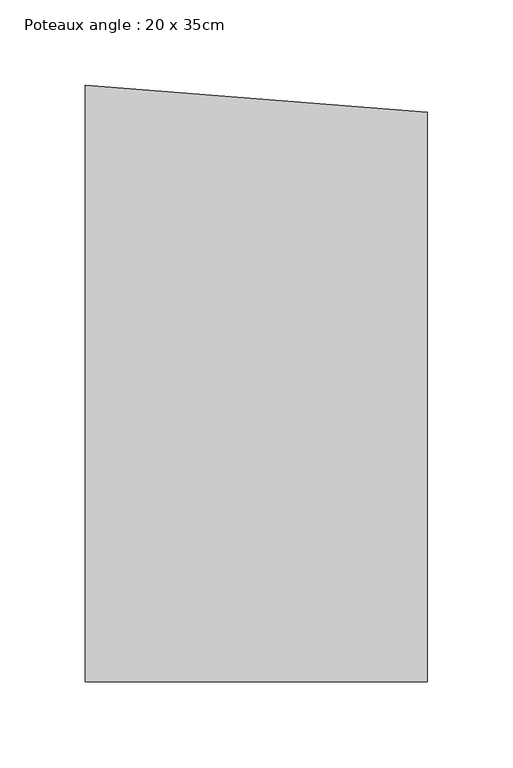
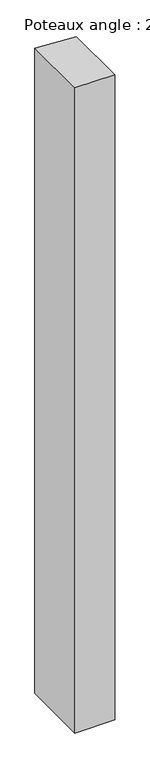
"""IFC4 building model written with IfcOpenShell, lengths in millimetres: column geometry, Poteaux angle : 20 x 35cm."""

from ifc_helpers import new_model, si_unit, origin, origin_with_axes, place, context, project, spatial, polyline, outline, extrude, source, transform, mapped, element, save


def poteaux_angle_20_x_35cm_51ce5a96(model_context):
    return source(origin(), model_context, "Body", "SweptSolid", [
        extrude(outline(polyline([(39989.0482781, 74549.8020814), (39789.0482781, 74549.8020814), (39789.0482781, 74898.6043676), (39989.0482781, 74882.7901624), (39989.0482781, 74549.8020814)])), origin_with_axes(), (0.0, 0.0, 1.0), 3430.0),
    ])


if __name__ == "__main__":
    model = new_model("IFC4")
    model_context = context("Model", 3, world=origin())
    ifc_project = project(units=[si_unit("LENGTHUNIT", "METRE", prefix="MILLI")], contexts=[model_context])
    site = spatial("IfcSite", under=ifc_project)
    building = spatial("IfcBuilding", under=site)
    placement = place(None, origin())
    poteaux_angle_20_x_35cm_shape = poteaux_angle_20_x_35cm_51ce5a96(model_context)
    element("IfcColumn", 1, ObjectType="Poteaux angle : 20 x 35cm", at=placement, inside=building, context=model_context, shape_type="MappedRepresentation", body=[
        mapped(poteaux_angle_20_x_35cm_shape, transform((0.0, 0.0, 0.0), x_axis=(1.0, 0.0, 0.0), y_axis=(0.0, 1.0, 0.0), z_axis=(0.0, 0.0, 1.0))),
    ])
    save(model, "model.ifc")
